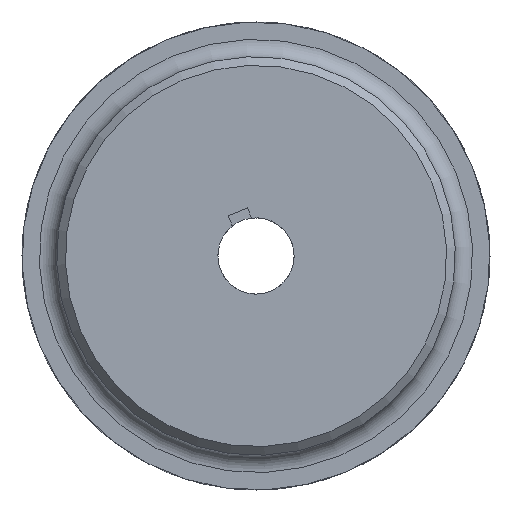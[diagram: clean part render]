
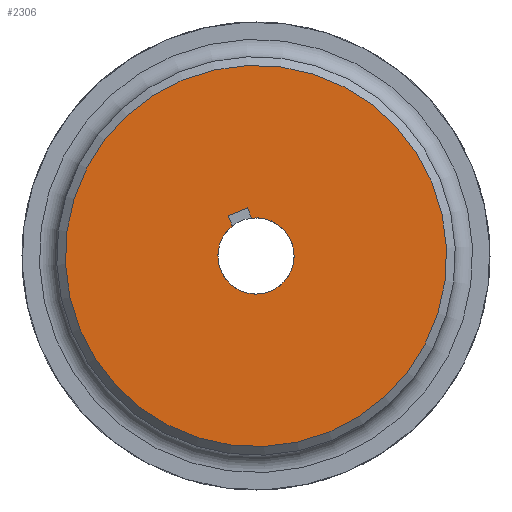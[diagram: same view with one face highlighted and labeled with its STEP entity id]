
A CAD part, left-side view. The second image highlights one B-rep face of the part: STEP entity #2306.
In plain terms, the highlighted planar face has unit normal (-1, 0, 0) as drawn and (0, 0, -1) by its records, which use the part's own axes.
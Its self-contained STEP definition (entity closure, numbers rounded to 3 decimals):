
#141=LINE('',#5115,#226);
#144=LINE('',#5121,#229);
#147=LINE('',#5127,#232);
#226=VECTOR('',#3092,10.);
#229=VECTOR('',#3097,10.);
#232=VECTOR('',#3102,10.);
#327=FACE_BOUND('',#607,.T.);
#457=FACE_OUTER_BOUND('',#606,.T.);
#606=EDGE_LOOP('',(#2112));
#607=EDGE_LOOP('',(#2113,#2114,#2115,#2116));
#811=CIRCLE('',#2579,11.);
#868=CIRCLE('',#2669,55.);
#1031=VERTEX_POINT('',#5112);
#1032=VERTEX_POINT('',#5114);
#1034=VERTEX_POINT('',#5120);
#1036=VERTEX_POINT('',#5126);
#1097=VERTEX_POINT('',#5386);
#1339=EDGE_CURVE('',#1032,#1031,#141,.T.);
#1342=EDGE_CURVE('',#1034,#1032,#144,.T.);
#1345=EDGE_CURVE('',#1036,#1034,#147,.T.);
#1348=EDGE_CURVE('',#1031,#1036,#811,.T.);
#1438=EDGE_CURVE('',#1097,#1097,#868,.T.);
#2112=ORIENTED_EDGE('',*,*,#1438,.F.);
#2113=ORIENTED_EDGE('',*,*,#1345,.T.);
#2114=ORIENTED_EDGE('',*,*,#1342,.T.);
#2115=ORIENTED_EDGE('',*,*,#1339,.T.);
#2116=ORIENTED_EDGE('',*,*,#1348,.T.);
#2177=PLANE('',#2668);
#2306=ADVANCED_FACE('',(#457,#327),#2177,.T.);
#2579=AXIS2_PLACEMENT_3D('',#5131,#3108,#3109);
#2668=AXIS2_PLACEMENT_3D('',#5385,#3311,#3312);
#2669=AXIS2_PLACEMENT_3D('',#5387,#3313,#3314);
#3092=DIRECTION('',(1.,0.,0.));
#3097=DIRECTION('',(0.,-1.,0.));
#3102=DIRECTION('',(-1.,0.,0.));
#3108=DIRECTION('center_axis',(0.,0.,
1.));
#3109=DIRECTION('ref_axis',(1.,0.,0.));
#3311=DIRECTION('center_axis',(0.,0.,
-1.));
#3312=DIRECTION('ref_axis',(0.,-1.,0.));
#3313=DIRECTION('center_axis',(0.,0.,
1.));
#3314=DIRECTION('ref_axis',(0.,1.,0.));
#5112=CARTESIAN_POINT('',(-10.583,-3.,-75.));
#5114=CARTESIAN_POINT('',(-13.8,-3.,-75.));
#5115=CARTESIAN_POINT('',(-6.9,-3.,-75.));
#5120=CARTESIAN_POINT('',(-13.8,3.,-75.));
#5121=CARTESIAN_POINT('',(-13.8,1.5,-75.));
#5126=CARTESIAN_POINT('',(-10.583,3.,-75.));
#5127=CARTESIAN_POINT('',(-5.292,3.,-75.));
#5131=CARTESIAN_POINT('Origin',(0.,0.,
-75.));
#5385=CARTESIAN_POINT('Origin',(0.,0.,
-75.));
#5386=CARTESIAN_POINT('',(0.,-55.,-75.));
#5387=CARTESIAN_POINT('Origin',(0.,0.,
-75.));
